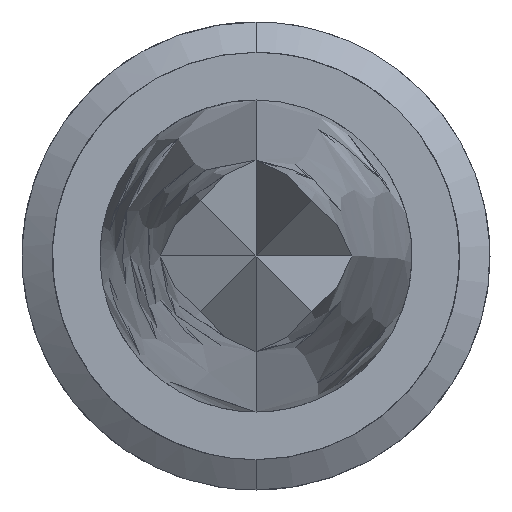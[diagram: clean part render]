
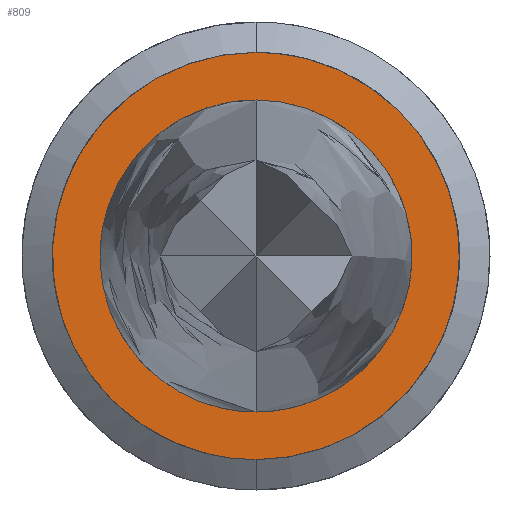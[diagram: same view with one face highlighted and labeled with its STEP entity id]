
A CAD part, left-side view. The second image highlights one B-rep face of the part: STEP entity #809.
In plain terms, the highlighted free-form (B-spline) face has degree [1, 1] with [2, 2] control points.
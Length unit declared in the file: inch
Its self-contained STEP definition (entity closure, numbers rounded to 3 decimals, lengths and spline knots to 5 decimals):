
#38 = ORIENTED_EDGE ( 'NONE', *, *, #549, .T. ) ;
#39 = CARTESIAN_POINT ( 'NONE',  ( 0.33, 0., -0.0235 ) ) ;
#75 = VERTEX_POINT ( 'NONE', #382 ) ;
#80 = CARTESIAN_POINT ( 'NONE',  ( 0.33, 0.00623, 0.0235 ) ) ;
#98 = CARTESIAN_POINT ( 'NONE',  ( 0.33, 0., -0.018 ) ) ;
#124 = CARTESIAN_POINT ( 'NONE',  ( 0.33, 0., 0.018 ) ) ;
#141 = B_SPLINE_CURVE_WITH_KNOTS ( 'NONE', 3,
 ( #402, #724, #803, #889, #235, #316, #164, #881, #956, #98 ),
 .UNSPECIFIED., .F., .F.,
 ( 4, 2, 2, 2, 4 ),
 ( 0., 0.7854, 1.5708, 2.35619, 3.14159 ),
 .UNSPECIFIED. ) ;
#164 = CARTESIAN_POINT ( 'NONE',  ( 0.33, -0.0161, -0.00935 ) ) ;
#168 = CARTESIAN_POINT ( 'NONE',  ( 0.33, -0.02102, -0.01221 ) ) ;
#169 = CARTESIAN_POINT ( 'NONE',  ( 0.33, 0.02378, -0.02378 ) ) ;
#192 = CARTESIAN_POINT ( 'NONE',  ( 0.33, 0.0161, 0.00935 ) ) ;
#195 = CARTESIAN_POINT ( 'NONE',  ( 0.33, 0., -0.018 ) ) ;
#201 = CARTESIAN_POINT ( 'NONE',  ( 0.33, 0.0161, -0.00935 ) ) ;
#202 = ORIENTED_EDGE ( 'NONE', *, *, #418, .T. ) ;
#224 = CARTESIAN_POINT ( 'NONE',  ( 0.33, 0.0235, 0.00623 ) ) ;
#230 = CARTESIAN_POINT ( 'NONE',  ( 0.33, 0., -0.0235 ) ) ;
#231 = CARTESIAN_POINT ( 'NONE',  ( 0.33, -0.0235, 0.00623 ) ) ;
#235 = CARTESIAN_POINT ( 'NONE',  ( 0.33, -0.018, 0.00477 ) ) ;
#261 = CARTESIAN_POINT ( 'NONE',  ( 0.33, 0.00477, -0.018 ) ) ;
#277 = CARTESIAN_POINT ( 'NONE',  ( 0.33, 0.018, -0.00477 ) ) ;
#293 = CARTESIAN_POINT ( 'NONE',  ( 0.33, 0.02102, -0.01221 ) ) ;
#299 = B_SPLINE_CURVE_WITH_KNOTS ( 'NONE', 3,
 ( #39, #557, #814, #168, #475, #231, #896, #486, #711, #807 ),
 .UNSPECIFIED., .F., .F.,
 ( 4, 2, 2, 2, 4 ),
 ( 0., 0.7854, 1.5708, 2.35619, 3.14159 ),
 .UNSPECIFIED. ) ;
#316 = CARTESIAN_POINT ( 'NONE',  ( 0.33, -0.018, -0.00477 ) ) ;
#371 = CARTESIAN_POINT ( 'NONE',  ( 0.33, 0., 0.0235 ) ) ;
#376 = CARTESIAN_POINT ( 'NONE',  ( 0.33, 0.01221, -0.02102 ) ) ;
#382 = CARTESIAN_POINT ( 'NONE',  ( 0.33, 0., 0.0235 ) ) ;
#402 = CARTESIAN_POINT ( 'NONE',  ( 0.33, 0., 0.018 ) ) ;
#412 = FACE_BOUND ( 'NONE', #515, .T. ) ;
#418 = EDGE_CURVE ( 'NONE', #693, #666, #444, .T. ) ;
#423 = EDGE_LOOP ( 'NONE', ( #38, #621 ) ) ;
#444 = B_SPLINE_CURVE_WITH_KNOTS ( 'NONE', 3,
 ( #461, #261, #989, #201, #277, #517, #192, #498, #829, #124 ),
 .UNSPECIFIED., .F., .F.,
 ( 4, 2, 2, 2, 4 ),
 ( 0., 0.7854, 1.5708, 2.35619, 3.14159 ),
 .UNSPECIFIED. ) ;
#461 = CARTESIAN_POINT ( 'NONE',  ( 0.33, 0., -0.018 ) ) ;
#475 = CARTESIAN_POINT ( 'NONE',  ( 0.33, -0.0235, -0.00623 ) ) ;
#476 = CARTESIAN_POINT ( 'NONE',  ( 0.33, -0.02378, 0.02378 ) ) ;
#484 = VERTEX_POINT ( 'NONE', #536 ) ;
#486 = CARTESIAN_POINT ( 'NONE',  ( 0.33, -0.01221, 0.02102 ) ) ;
#496 = ORIENTED_EDGE ( 'NONE', *, *, #824, .T. ) ;
#497 = CARTESIAN_POINT ( 'NONE',  ( 0.33, 0., 0.018 ) ) ;
#498 = CARTESIAN_POINT ( 'NONE',  ( 0.33, 0.00935, 0.0161 ) ) ;
#515 = EDGE_LOOP ( 'NONE', ( #202, #496 ) ) ;
#517 = CARTESIAN_POINT ( 'NONE',  ( 0.33, 0.018, 0.00477 ) ) ;
#536 = CARTESIAN_POINT ( 'NONE',  ( 0.33, 0., -0.0235 ) ) ;
#544 = FACE_OUTER_BOUND ( 'NONE', #423, .T. ) ;
#549 = EDGE_CURVE ( 'NONE', #75, #484, #924, .T. ) ;
#557 = CARTESIAN_POINT ( 'NONE',  ( 0.33, -0.00623, -0.0235 ) ) ;
#621 = ORIENTED_EDGE ( 'NONE', *, *, #843, .T. ) ;
#666 = VERTEX_POINT ( 'NONE', #497 ) ;
#689 = CARTESIAN_POINT ( 'NONE',  ( 0.33, 0.0235, -0.00623 ) ) ;
#693 = VERTEX_POINT ( 'NONE', #195 ) ;
#695 = CARTESIAN_POINT ( 'NONE',  ( 0.33, 0.00623, -0.0235 ) ) ;
#711 = CARTESIAN_POINT ( 'NONE',  ( 0.33, -0.00623, 0.0235 ) ) ;
#712 = CARTESIAN_POINT ( 'NONE',  ( 0.33, -0.02378, -0.02378 ) ) ;
#724 = CARTESIAN_POINT ( 'NONE',  ( 0.33, -0.00477, 0.018 ) ) ;
#725 = B_SPLINE_SURFACE_WITH_KNOTS ( 'NONE', 1, 1, ( 
 ( #712, #169 ),
 ( #476, #808 ) ),
 .UNSPECIFIED., .F., .F., .F.,
 ( 2, 2 ),
 ( 2, 2 ),
 ( 0., 1. ),
 ( 0., 1. ),
 .UNSPECIFIED. ) ;
#803 = CARTESIAN_POINT ( 'NONE',  ( 0.33, -0.00935, 0.0161 ) ) ;
#807 = CARTESIAN_POINT ( 'NONE',  ( 0.33, 0., 0.0235 ) ) ;
#808 = CARTESIAN_POINT ( 'NONE',  ( 0.33, 0.02378, 0.02378 ) ) ;
#809 = ADVANCED_FACE ( 'NONE', ( #412, #544 ), #725, .T. ) ;
#814 = CARTESIAN_POINT ( 'NONE',  ( 0.33, -0.01221, -0.02102 ) ) ;
#824 = EDGE_CURVE ( 'NONE', #666, #693, #141, .T. ) ;
#829 = CARTESIAN_POINT ( 'NONE',  ( 0.33, 0.00477, 0.018 ) ) ;
#843 = EDGE_CURVE ( 'NONE', #484, #75, #299, .T. ) ;
#881 = CARTESIAN_POINT ( 'NONE',  ( 0.33, -0.00935, -0.0161 ) ) ;
#889 = CARTESIAN_POINT ( 'NONE',  ( 0.33, -0.0161, 0.00935 ) ) ;
#896 = CARTESIAN_POINT ( 'NONE',  ( 0.33, -0.02102, 0.01221 ) ) ;
#924 = B_SPLINE_CURVE_WITH_KNOTS ( 'NONE', 3,
 ( #371, #80, #933, #941, #224, #689, #293, #376, #695, #230 ),
 .UNSPECIFIED., .F., .F.,
 ( 4, 2, 2, 2, 4 ),
 ( 0., 0.7854, 1.5708, 2.35619, 3.14159 ),
 .UNSPECIFIED. ) ;
#933 = CARTESIAN_POINT ( 'NONE',  ( 0.33, 0.01221, 0.02102 ) ) ;
#941 = CARTESIAN_POINT ( 'NONE',  ( 0.33, 0.02102, 0.01221 ) ) ;
#956 = CARTESIAN_POINT ( 'NONE',  ( 0.33, -0.00477, -0.018 ) ) ;
#989 = CARTESIAN_POINT ( 'NONE',  ( 0.33, 0.00935, -0.0161 ) ) ;
